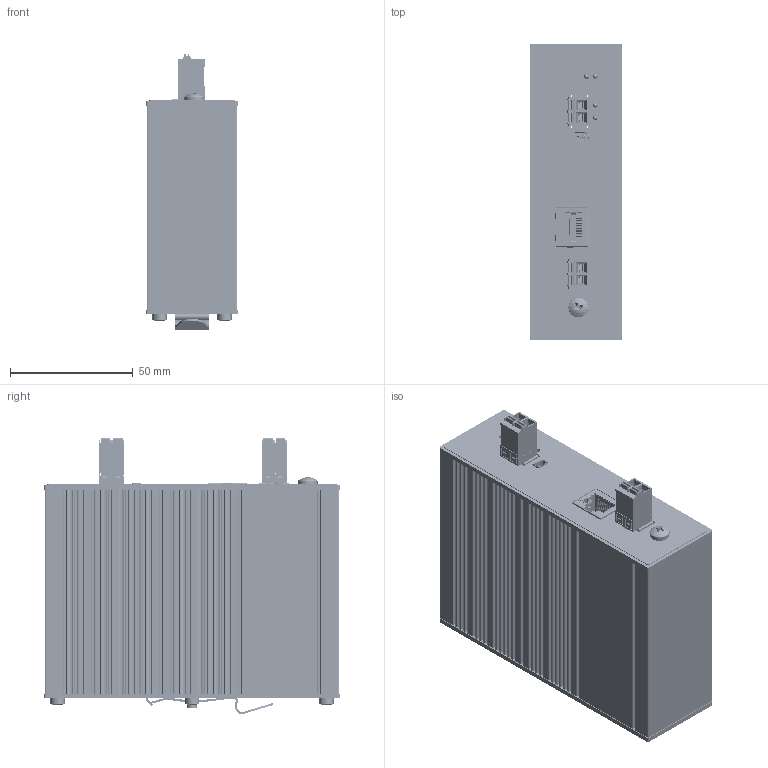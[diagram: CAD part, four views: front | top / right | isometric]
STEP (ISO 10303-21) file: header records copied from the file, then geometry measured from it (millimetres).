
FILE_DESCRIPTION (( 'STEP AP214' ), '1' );
FILE_NAME ('XELAN_110_client.STEP', '2024-03-01T15:18:24', ( '' ), ( '' ), 'SwSTEP 2.0', 'SolidWorks 2020', '' );
FILE_SCHEMA (( 'AUTOMOTIVE_DESIGN' ));
Length unit declared in the file: millimetre
Products named in the file (34): STP_691304500002 (rev1).stp; RELAY_PANASONIC_AGN20003_AGN20003; APBDA3020CGK-cwx; 1757242_06_MSTBA-2-5-2-G-5-08_3D; 2726010000.stp; VIS torx tête bombé M3 x 10; Vis CHC M3x6_bombée_noire; tdwcom21-2ports_1 port client; lexan-XELAN_110; 7793; tdwcom21; vis bombée cruciforme_M4x8_ISO 7045 - M4 x 8 - Z - 8N; vis bombée cruciforme_M4x8_ISO 7045 - M4 x 6 - Z - 6N; CNT_LINK-PP_LPJ16047A10NL.stp; hex tapping screws_iso2_Tapping Screw ISO 14585 - ST3.5 x 9.5-C-N; MCD043; MCA039_210; XELAN_110_client; SW_TE_2-1571999-7; MCB018_default; BLS149; socket button head screw_iso_ISO 7380 - M3 x 6 - 6N; APBDA3020-cwx; 0687900000.stp
Assembly tree (47 placements, depth 3):
  XELAN_110_client
    MCD043
    MCB018_default
    STP_691304500002 (rev1).stp  x2
    0687900000.stp
    MCA039_210
    Vis CHC M3x6_bombée_noire
      socket button head screw_iso_ISO 7380 - M3 x 6 - 6N
    Vis CHC M3x6_bombée_noire
      socket button head screw_iso_ISO 7380 - M3 x 6 - 6N
    Vis CHC M3x6_bombée_noire
      socket button head screw_iso_ISO 7380 - M3 x 6 - 6N
    Vis CHC M3x6_bombée_noire
      socket button head screw_iso_ISO 7380 - M3 x 6 - 6N
    BLS149
      lexan-XELAN_110
    vis bombée cruciforme_M4x8_ISO 7045 - M4 x 8 - Z - 8N
    tdwcom21-2ports_1 port client
      tdwcom21
      CNT_LINK-PP_LPJ16047A10NL.stp
      APBDA3020-cwx  x2
      2726010000.stp
      1757242_06_MSTBA-2-5-2-G-5-08_3D  x2
      APBDA3020CGK-cwx  x2
      SW_TE_2-1571999-7
      7793
    RELAY_PANASONIC_AGN20003_AGN20003
    Vis CHC M3x6_bombée_noire
      socket button head screw_iso_ISO 7380 - M3 x 6 - 6N
    Vis CHC M3x6_bombée_noire
      socket button head screw_iso_ISO 7380 - M3 x 6 - 6N
    VIS torx tête bombé M3 x 10
      hex tapping screws_iso2_Tapping Screw ISO 14585 - ST3.5 x 9.5-C-N
    VIS torx tête bombé M3 x 10
      hex tapping screws_iso2_Tapping Screw ISO 14585 - ST3.5 x 9.5-C-N
    VIS torx tête bombé M3 x 10
      hex tapping screws_iso2_Tapping Screw ISO 14585 - ST3.5 x 9.5-C-N
    VIS torx tête bombé M3 x 10
      hex tapping screws_iso2_Tapping Screw ISO 14585 - ST3.5 x 9.5-C-N
    VIS torx tête bombé M3 x 10
      hex tapping screws_iso2_Tapping Screw ISO 14585 - ST3.5 x 9.5-C-N
    VIS torx tête bombé M3 x 10
      hex tapping screws_iso2_Tapping Screw ISO 14585 - ST3.5 x 9.5-C-N
    vis bombée cruciforme_M4x8_ISO 7045 - M4 x 6 - Z - 6N
Bounding box: 37.6 x 120.6 x 112.48 mm (x, y, z)
Volume: 151727.6 mm3; surface area: 157803.9 mm2
Topology: 80 solids, 80 shells, 8042 faces, 22326 edges, 14624 vertices
Faces by surface type: plane 4155, cylinder 3098, bspline 612, cone 108, torus 37, sphere 32
Entity records: 247017 total; most frequent: CARTESIAN_POINT 52147, ORIENTED_EDGE 34298, DIRECTION 33186, EDGE_CURVE 17149, AXIS2_PLACEMENT_3D 11385, VERTEX_POINT 11285, LINE 10416, VECTOR 10416
